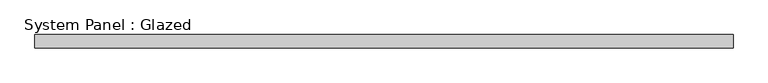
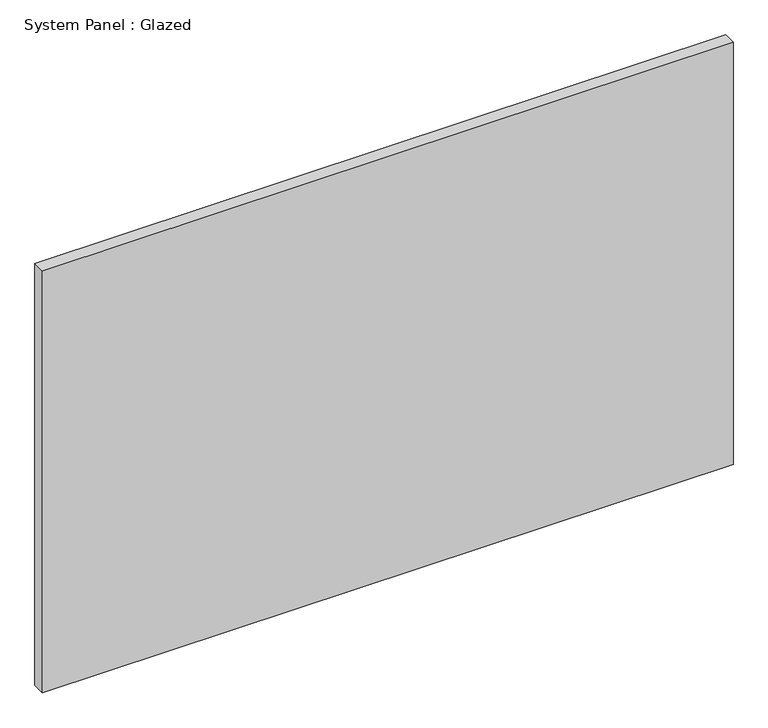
"""IFC4 building model written with IfcOpenShell, lengths in millimetres: plate geometry, System Panel : Glazed."""

import ifcopenshell
import ifcopenshell.guid

model = None  # the IFC model being written
_history = None  # IfcOwnerHistory: only IFC2X3 demands one
_inside = {}  # id of a spatial element -> (the spatial element, [elements in it])
_under = {}  # id of a project, library or spatial element -> (it, [spatial elements below it])
_declared = {}  # id of a project -> (the project, [libraries it declares])
_typed = {}  # id of a type object -> (the type object, [elements of that type])
_made_of = {}  # id of a material, layer set ... -> (it, [elements and type objects made of it])


def new_model(schema):
    """Start an empty IFC model of exactly this schema.

    Asked for "IFC4X3", IfcOpenShell would pick the latest addendum, in which some entities
    have other attributes; the version numbers below select the first issue.
    IFC2X3 requires an IfcOwnerHistory on every rooted entity: one is made here for all.
    """
    global model, _history
    if schema == "IFC4X3":
        model = ifcopenshell.file(schema_version=(4, 3, 0, 0))
    else:
        model = ifcopenshell.file(schema=schema)
    _inside.clear()
    _under.clear()
    _declared.clear()
    _typed.clear()
    _made_of.clear()
    _history = None
    if model.schema == "IFC2X3":
        org = make("IfcOrganization", Name="unknown")
        user = make(
            "IfcPersonAndOrganization",
            ThePerson=make("IfcPerson", FamilyName="unknown"),
            TheOrganization=org,
        )
        app = make(
            "IfcApplication",
            ApplicationDeveloper=org,
            Version="unknown",
            ApplicationFullName="unknown",
            ApplicationIdentifier="unknown",
        )
        _history = make(
            "IfcOwnerHistory",
            OwningUser=user,
            OwningApplication=app,
            ChangeAction="ADDED",
            CreationDate=0,
        )
    return model


def make(cls, **values):
    """One entity of the class cls with the attributes given. An attribute that is None is left unset."""
    return model.create_entity(
        cls, **{name: value for name, value in values.items() if value is not None}
    )


def rooted(cls, **values):
    """An entity with a GlobalId (a new one), such as an element, a storey or a relation."""
    return make(cls, GlobalId=ifcopenshell.guid.new(), OwnerHistory=_history, **values)


def si_unit(unit_type, name, prefix=None):
    """IfcSIUnit, for example si_unit("LENGTHUNIT", "METRE", prefix="MILLI")."""
    return make("IfcSIUnit", UnitType=unit_type, Prefix=prefix, Name=name)


def assignment(units):
    """IfcUnitAssignment: the units of a project."""
    return None if units is None else make("IfcUnitAssignment", Units=units)


def point(xyz):
    """IfcCartesianPoint."""
    return None if xyz is None else make("IfcCartesianPoint", Coordinates=xyz)


def direction(xyz):
    """IfcDirection."""
    return None if xyz is None else make("IfcDirection", DirectionRatios=xyz)


def frame(location, z_axis=None, x_axis=None):
    """IfcAxis2Placement3D, a coordinate frame: its origin and axes. An axis left out is left unset."""
    return make(
        "IfcAxis2Placement3D",
        Location=point(location),
        Axis=direction(z_axis),
        RefDirection=direction(x_axis),
    )


def origin():
    """The frame at (0, 0, 0) with its axes left unset."""
    return frame((0.0, 0.0, 0.0))


def origin_with_axes():
    """The frame at (0, 0, 0) with the z axis (0, 0, 1) and the x axis (1, 0, 0) written out."""
    return frame((0.0, 0.0, 0.0), z_axis=(0.0, 0.0, 1.0), x_axis=(1.0, 0.0, 0.0))


def place(relative_to, where):
    """IfcLocalPlacement: puts the frame where relative to a parent placement (None: the world)."""
    return make(
        "IfcLocalPlacement", PlacementRelTo=relative_to, RelativePlacement=where
    )


def context(
    kind, dimensions, precision=None, world=None, true_north=None, identifier=None
):
    """IfcGeometricRepresentationContext, for example the 3D "Model" context."""
    return make(
        "IfcGeometricRepresentationContext",
        ContextIdentifier=identifier,
        ContextType=kind,
        CoordinateSpaceDimension=dimensions,
        Precision=precision,
        WorldCoordinateSystem=world,
        TrueNorth=true_north,
    )


def project(units=None, contexts=None):
    """IfcProject with its units and contexts."""
    return rooted(
        "IfcProject",
        Name="project",
        RepresentationContexts=contexts,
        UnitsInContext=assignment(units),
    )


def spatial(cls, under=None, at=None, **own):
    """A site, building, storey or space (cls), placed at a placement, below another one or the project."""
    s = rooted(cls, ObjectPlacement=at, **own)
    if under is not None:
        _under.setdefault(under.id(), (under, []))[1].append(s)
    return s


def polyline(points):
    """IfcPolyline through the points."""
    return make("IfcPolyline", Points=[point(p) for p in points])


def outline(outer, holes=None, kind="AREA"):
    """IfcArbitraryClosedProfileDef: a profile drawn as a closed curve; with holes, ...WithVoids."""
    if holes is None:
        return make("IfcArbitraryClosedProfileDef", ProfileType=kind, OuterCurve=outer)
    return make(
        "IfcArbitraryProfileDefWithVoids",
        ProfileType=kind,
        OuterCurve=outer,
        InnerCurves=holes,
    )


def extrude(swept, where, along, depth):
    """IfcExtrudedAreaSolid: the profile swept, set in the frame where, extruded along a direction by depth."""
    return make(
        "IfcExtrudedAreaSolid",
        SweptArea=swept,
        Position=where,
        ExtrudedDirection=direction(along),
        Depth=depth,
    )


def shape(context_of_items, identifier, shape_type, items):
    """IfcShapeRepresentation: the items that make up one representation, for example the "Body"."""
    return make(
        "IfcShapeRepresentation",
        ContextOfItems=context_of_items,
        RepresentationIdentifier=identifier,
        RepresentationType=shape_type,
        Items=items,
    )


def source(mapping_origin, context_of_items, identifier, shape_type, items):
    """IfcRepresentationMap: a shape defined once, which mapped items show again and again."""
    return make(
        "IfcRepresentationMap",
        MappingOrigin=mapping_origin,
        MappedRepresentation=shape(context_of_items, identifier, shape_type, items),
    )


def transform(
    local_origin,
    x_axis=None,
    y_axis=None,
    z_axis=None,
    scale=None,
    scale2=None,
    scale3=None,
    uniform=True,
):
    """IfcCartesianTransformationOperator3D, or its non-uniform kind. x_axis, y_axis, z_axis: its Axis1, 2, 3."""
    if uniform:
        return make(
            "IfcCartesianTransformationOperator3D",
            Axis1=direction(x_axis),
            Axis2=direction(y_axis),
            LocalOrigin=point(local_origin),
            Scale=scale,
            Axis3=direction(z_axis),
        )
    return make(
        "IfcCartesianTransformationOperator3DnonUniform",
        Axis1=direction(x_axis),
        Axis2=direction(y_axis),
        LocalOrigin=point(local_origin),
        Scale=scale,
        Axis3=direction(z_axis),
        Scale2=scale2,
        Scale3=scale3,
    )


def mapped(mapping_source, mapping_target):
    """IfcMappedItem: shows the shape of a source again, moved by a transform."""
    return make(
        "IfcMappedItem", MappingSource=mapping_source, MappingTarget=mapping_target
    )


def made_of(thing, what):
    """Note that an element or type object is made of a material, layer set ...; save() writes the relation."""
    if what is not None:
        _made_of.setdefault(what.id(), (what, []))[1].append(thing)
    return thing


def element(
    cls,
    number,
    at=None,
    inside=None,
    cuts=None,
    type_object=None,
    material=None,
    context=None,
    identifier="Body",
    shape_type=None,
    held_by="IfcProductDefinitionShape",
    body=None,
    shapes=None,
    **own,
):
    """One element of the class cls, such as IfcWall. Its Tag is "e" and its number.

    at: its placement. inside: the storey or other place that contains it. cuts: it is an
    opening in that element (IfcRelVoidsElement). A single representation is given by context,
    identifier, shape_type and body (its items); several are given by shapes. held_by: the class
    of the entity that holds the representations. save() writes the other relations.
    """
    e = rooted(cls, Tag="e%d" % number, ObjectPlacement=at, **own)
    if body is not None:
        shapes = [shape(context, identifier, shape_type, body)]
    if shapes is not None:
        e.Representation = make(held_by, Representations=shapes)
    if inside is not None:
        _inside.setdefault(inside.id(), (inside, []))[1].append(e)
    if cuts is not None:
        rooted(
            "IfcRelVoidsElement", RelatingBuildingElement=cuts, RelatedOpeningElement=e
        )
    if type_object is not None:
        _typed.setdefault(type_object.id(), (type_object, []))[1].append(e)
    return made_of(e, material)


def aggregate(whole, parts):
    """IfcRelAggregates: a whole, such as a stair, and the parts it consists of."""
    return rooted("IfcRelAggregates", RelatingObject=whole, RelatedObjects=parts)


def save(model, path):
    """Write the relations noted so far, then the file.

    IfcRelAggregates (storeys below a building ...), IfcRelContainedInSpatialStructure (elements
    in a storey), IfcRelDefinesByType, IfcRelAssociatesMaterial and IfcRelDeclares: one each for
    every whole, place, type object, material and project.
    """
    for whole, parts in _under.values():
        aggregate(whole, parts)
    for where, things in _inside.values():
        rooted(
            "IfcRelContainedInSpatialStructure",
            RelatedElements=things,
            RelatingStructure=where,
        )
    for kind, things in _typed.values():
        rooted("IfcRelDefinesByType", RelatedObjects=things, RelatingType=kind)
    for what, things in _made_of.values():
        rooted("IfcRelAssociatesMaterial", RelatedObjects=things, RelatingMaterial=what)
    for by, libraries in _declared.values():
        rooted("IfcRelDeclares", RelatingContext=by, RelatedDefinitions=libraries)
    model.write(path)


def system_panel_glazed_cc759a12(model_context):
    return source(origin(), model_context, "Body", "SweptSolid", [
        extrude(outline(polyline([(674.4738159, 19.05), (-674.4738159, 19.05), (-674.4738159, 44.45), (674.4738159, 44.45), (674.4738159, 19.05)])), origin_with_axes(), (0.0, 0.0, 1.0), 871.864222),
    ])


if __name__ == "__main__":
    model = new_model("IFC4")
    model_context = context("Model", 3, world=origin())
    ifc_project = project(units=[si_unit("LENGTHUNIT", "METRE", prefix="MILLI")], contexts=[model_context])
    site = spatial("IfcSite", under=ifc_project)
    building = spatial("IfcBuilding", under=site)
    placement = place(None, origin())
    system_panel_glazed_shape = system_panel_glazed_cc759a12(model_context)
    element("IfcPlate", 1, ObjectType="System Panel : Glazed", at=placement, inside=building, context=model_context, shape_type="MappedRepresentation", body=[
        mapped(system_panel_glazed_shape, transform((0.0, 0.0, 0.0), x_axis=(1.0, 0.0, 0.0), y_axis=(0.0, 1.0, 0.0), z_axis=(0.0, 0.0, 1.0))),
    ])
    save(model, "model.ifc")
